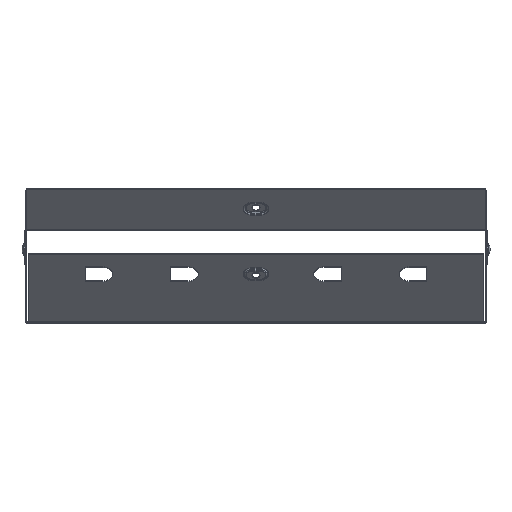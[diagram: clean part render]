
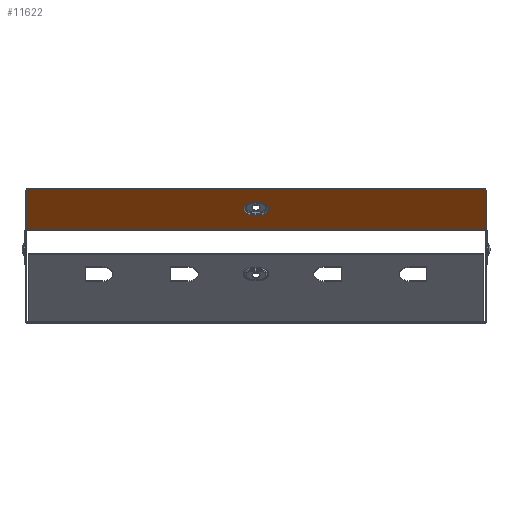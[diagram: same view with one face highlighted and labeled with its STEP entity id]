
A CAD part, top view. The second image highlights one B-rep face of the part: STEP entity #11622.
In plain terms, the highlighted planar face has unit normal (0, -0.707, 0.707).
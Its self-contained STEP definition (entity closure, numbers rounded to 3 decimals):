
#62 = EDGE_CURVE ( 'NONE', #1092, #840, #1861, .T. ) ;
#286 = VERTEX_POINT ( 'NONE', #6466 ) ;
#477 = EDGE_CURVE ( 'NONE', #7926, #1092, #13814, .T. ) ;
#698 = FACE_BOUND ( 'NONE', #7792, .T. ) ;
#840 = VERTEX_POINT ( 'NONE', #3866 ) ;
#904 = LINE ( 'NONE', #6815, #1280 ) ;
#1092 = VERTEX_POINT ( 'NONE', #12766 ) ;
#1096 = VERTEX_POINT ( 'NONE', #1158 ) ;
#1158 = CARTESIAN_POINT ( 'NONE',  ( -3.5, 23.192, 86.823 ) ) ;
#1254 = ORIENTED_EDGE ( 'NONE', *, *, #13779, .F. ) ;
#1280 = VECTOR ( 'NONE', #11500, 1000. ) ;
#1861 = CIRCLE ( 'NONE', #8330, 7.598 ) ;
#3212 = CARTESIAN_POINT ( 'NONE',  ( -3.5, 17.819, 81.45 ) ) ;
#3359 = DIRECTION ( 'NONE',  ( 0., 0.707, 0.707 ) ) ;
#3369 = DIRECTION ( 'NONE',  ( 0., -0.707, 0.707 ) ) ;
#3866 = CARTESIAN_POINT ( 'NONE',  ( 3.5, 23.192, 86.823 ) ) ;
#3958 = LINE ( 'NONE', #8639, #15147 ) ;
#4400 = DIRECTION ( 'NONE',  ( 0., -0.707, 0.707 ) ) ;
#4501 = DIRECTION ( 'NONE',  ( 0., 0.707, -0.707 ) ) ;
#4516 = AXIS2_PLACEMENT_3D ( 'NONE', #9318, #4501, #3359 ) ;
#4802 = DIRECTION ( 'NONE',  ( -1., 0., 0. ) ) ;
#4855 = CARTESIAN_POINT ( 'NONE',  ( 199., -0.273, 63.359 ) ) ;
#5200 = VECTOR ( 'NONE', #4802, 1000. ) ;
#5280 = LINE ( 'NONE', #13275, #13165 ) ;
#5635 = DIRECTION ( 'NONE',  ( 1., 0., 0. ) ) ;
#5653 = ORIENTED_EDGE ( 'NONE', *, *, #477, .F. ) ;
#5681 = ORIENTED_EDGE ( 'NONE', *, *, #13139, .T. ) ;
#6466 = CARTESIAN_POINT ( 'NONE',  ( 199., -0.273, 63.359 ) ) ;
#6768 = EDGE_CURVE ( 'NONE', #14314, #286, #5280, .T. ) ;
#6815 = CARTESIAN_POINT ( 'NONE',  ( -3.5, 23.192, 86.823 ) ) ;
#6928 = EDGE_LOOP ( 'NONE', ( #5681, #12715, #9254, #9045 ) ) ;
#6929 = DIRECTION ( 'NONE',  ( 0., -0.707, -0.707 ) ) ;
#7274 = VERTEX_POINT ( 'NONE', #10045 ) ;
#7355 = CIRCLE ( 'NONE', #11430, 7.598 ) ;
#7792 = EDGE_LOOP ( 'NONE', ( #14746, #5653, #11464, #1254 ) ) ;
#7926 = VERTEX_POINT ( 'NONE', #13180 ) ;
#8162 = EDGE_CURVE ( 'NONE', #1096, #7926, #7355, .T. ) ;
#8330 = AXIS2_PLACEMENT_3D ( 'NONE', #10403, #3369, #10452 ) ;
#8639 = CARTESIAN_POINT ( 'NONE',  ( 199., 34.79, 98.421 ) ) ;
#9045 = ORIENTED_EDGE ( 'NONE', *, *, #11366, .T. ) ;
#9074 = DIRECTION ( 'NONE',  ( 0., -0.707, -0.707 ) ) ;
#9254 = ORIENTED_EDGE ( 'NONE', *, *, #6768, .F. ) ;
#9318 = CARTESIAN_POINT ( 'NONE',  ( 199., -0.566, 63.066 ) ) ;
#9597 = CARTESIAN_POINT ( 'NONE',  ( 199., 34.79, 98.421 ) ) ;
#9879 = EDGE_CURVE ( 'NONE', #286, #7274, #11793, .T. ) ;
#10045 = CARTESIAN_POINT ( 'NONE',  ( -199., -0.273, 63.359 ) ) ;
#10064 = CARTESIAN_POINT ( 'NONE',  ( -199., -0.566, 63.066 ) ) ;
#10403 = CARTESIAN_POINT ( 'NONE',  ( 3.5, 17.819, 81.45 ) ) ;
#10452 = DIRECTION ( 'NONE',  ( 0., -0.707, -0.707 ) ) ;
#10809 = FACE_OUTER_BOUND ( 'NONE', #6928, .T. ) ;
#10900 = DIRECTION ( 'NONE',  ( 0., -0.707, -0.707 ) ) ;
#10983 = DIRECTION ( 'NONE',  ( -1., 0., 0. ) ) ;
#11230 = VECTOR ( 'NONE', #9074, 1000. ) ;
#11366 = EDGE_CURVE ( 'NONE', #14314, #11504, #3958, .T. ) ;
#11430 = AXIS2_PLACEMENT_3D ( 'NONE', #3212, #4400, #6929 ) ;
#11464 = ORIENTED_EDGE ( 'NONE', *, *, #8162, .F. ) ;
#11500 = DIRECTION ( 'NONE',  ( -1., 0., 0. ) ) ;
#11504 = VERTEX_POINT ( 'NONE', #13891 ) ;
#11622 = ADVANCED_FACE ( 'NONE', ( #698, #10809 ), #14002, .F. ) ;
#11793 = LINE ( 'NONE', #4855, #5200 ) ;
#12520 = LINE ( 'NONE', #10064, #11230 ) ;
#12715 = ORIENTED_EDGE ( 'NONE', *, *, #9879, .F. ) ;
#12766 = CARTESIAN_POINT ( 'NONE',  ( 3.5, 12.446, 76.078 ) ) ;
#13139 = EDGE_CURVE ( 'NONE', #11504, #7274, #12520, .T. ) ;
#13165 = VECTOR ( 'NONE', #10900, 1000. ) ;
#13180 = CARTESIAN_POINT ( 'NONE',  ( -3.5, 12.446, 76.078 ) ) ;
#13275 = CARTESIAN_POINT ( 'NONE',  ( 199., -0.566, 63.066 ) ) ;
#13779 = EDGE_CURVE ( 'NONE', #840, #1096, #904, .T. ) ;
#13814 = LINE ( 'NONE', #14810, #14721 ) ;
#13891 = CARTESIAN_POINT ( 'NONE',  ( -199., 34.79, 98.421 ) ) ;
#14002 = PLANE ( 'NONE',  #4516 ) ;
#14314 = VERTEX_POINT ( 'NONE', #9597 ) ;
#14721 = VECTOR ( 'NONE', #5635, 1000. ) ;
#14746 = ORIENTED_EDGE ( 'NONE', *, *, #62, .F. ) ;
#14810 = CARTESIAN_POINT ( 'NONE',  ( -3.5, 12.446, 76.078 ) ) ;
#15147 = VECTOR ( 'NONE', #10983, 1000. ) ;
